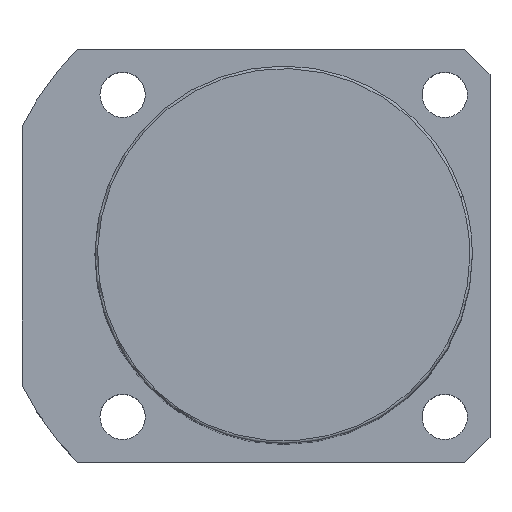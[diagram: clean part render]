
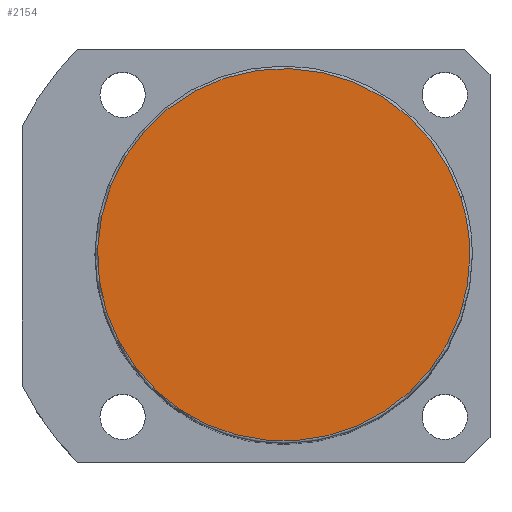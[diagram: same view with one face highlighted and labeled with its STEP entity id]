
A CAD part, top view. The second image highlights one B-rep face of the part: STEP entity #2154.
In plain terms, the highlighted planar face has unit normal (0, 0, 1).
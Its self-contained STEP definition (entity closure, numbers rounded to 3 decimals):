
#2120=CARTESIAN_POINT('',(37.0,0.0,143.0));
#2121=VERTEX_POINT('',#2120);
#2122=CARTESIAN_POINT('',(35.189,11.434,143.0));
#2123=VERTEX_POINT('',#2122);
#2124=CARTESIAN_POINT('',(0.0,0.0,143.0));
#2125=DIRECTION('',(0.0,0.0,1.0));
#2126=DIRECTION('',(1.0,0.0,0.0));
#2127=AXIS2_PLACEMENT_3D('',#2124,#2125,#2126);
#2128=CIRCLE('',#2127,37.0);
#2129=EDGE_CURVE('no 1988',#2121,#2123,#2128,.T.);
#2130=ORIENTED_EDGE('',*,*,#2129,.T.);
#2131=CARTESIAN_POINT('',(-35.189,-11.434,143.0));
#2132=VERTEX_POINT('',#2131);
#2133=CARTESIAN_POINT('',(0.0,0.0,143.0));
#2134=DIRECTION('',(0.0,0.0,1.0));
#2135=DIRECTION('',(1.0,0.0,0.0));
#2136=AXIS2_PLACEMENT_3D('',#2133,#2134,#2135);
#2137=CIRCLE('',#2136,37.0);
#2138=EDGE_CURVE('no 1994',#2123,#2132,#2137,.T.);
#2139=ORIENTED_EDGE('',*,*,#2138,.T.);
#2140=CARTESIAN_POINT('',(0.0,0.0,143.0));
#2141=DIRECTION('',(0.0,0.0,1.0));
#2142=DIRECTION('',(1.0,0.0,0.0));
#2143=AXIS2_PLACEMENT_3D('',#2140,#2141,#2142);
#2144=CIRCLE('',#2143,37.0);
#2145=EDGE_CURVE('no 1998',#2132,#2121,#2144,.T.);
#2146=ORIENTED_EDGE('',*,*,#2145,.T.);
#2147=EDGE_LOOP('',(#2130,#2139,#2146));
#2148=FACE_OUTER_BOUND('',#2147,.T.);
#2149=CARTESIAN_POINT('',(0.0,0.0,143.0));
#2150=DIRECTION('',(0.0,0.0,1.0));
#2151=DIRECTION('',(1.0,0.0,0.0));
#2152=AXIS2_PLACEMENT_3D('',#2149,#2150,#2151);
#2153=PLANE('',#2152);
#2154=ADVANCED_FACE('no 1979',(#2148),#2153,.T.);
